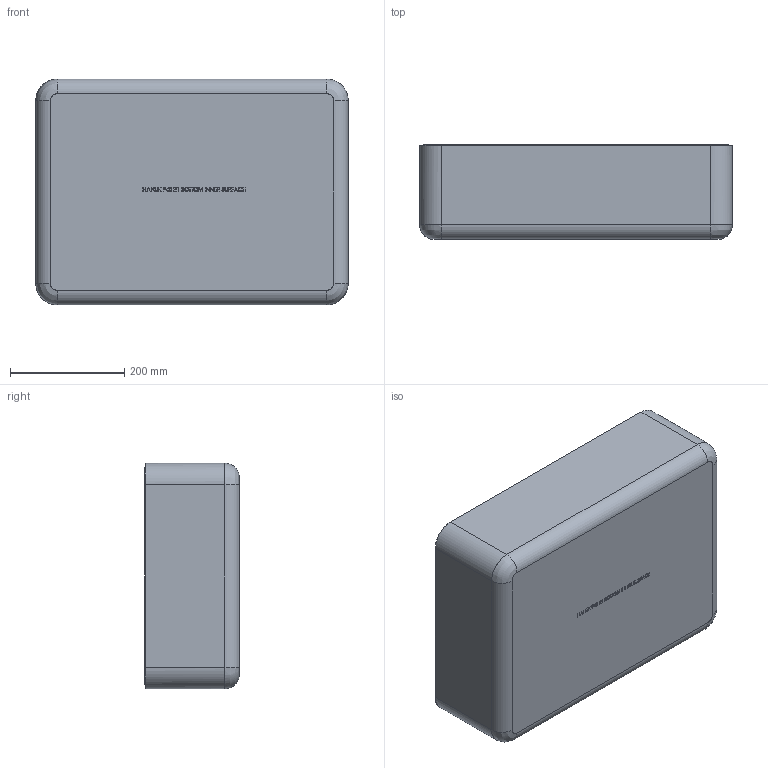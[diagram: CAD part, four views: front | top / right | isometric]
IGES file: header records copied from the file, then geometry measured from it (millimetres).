
Start section: SolidWorks IGES file using analytic representation for surfaces
Global section: file name: C:\Users\ericp\OneDrive\Documents\Plasticase Co-op\New Nanuk Cases\940\NEW DESIGN R1\4 - 3D FILES\940 Inner Surfaces\940_R1_Btm_INNER_SURFACE_IGES.IGS; native system: SolidWorks 2018; preprocessor: SolidWorks 2018; author: ericp; date: 200317.173304; units: inch
Bounding box: 547.99 x 166.23 x 395.58 mm (x, y, z)
Surface area: 949500.8 mm2 (no closed solid volume)
Topology: 0 solids, 0 shells, 1105 faces, 13297 edges, 13287 vertices
Faces by surface type: bspline 925, revolution 180
